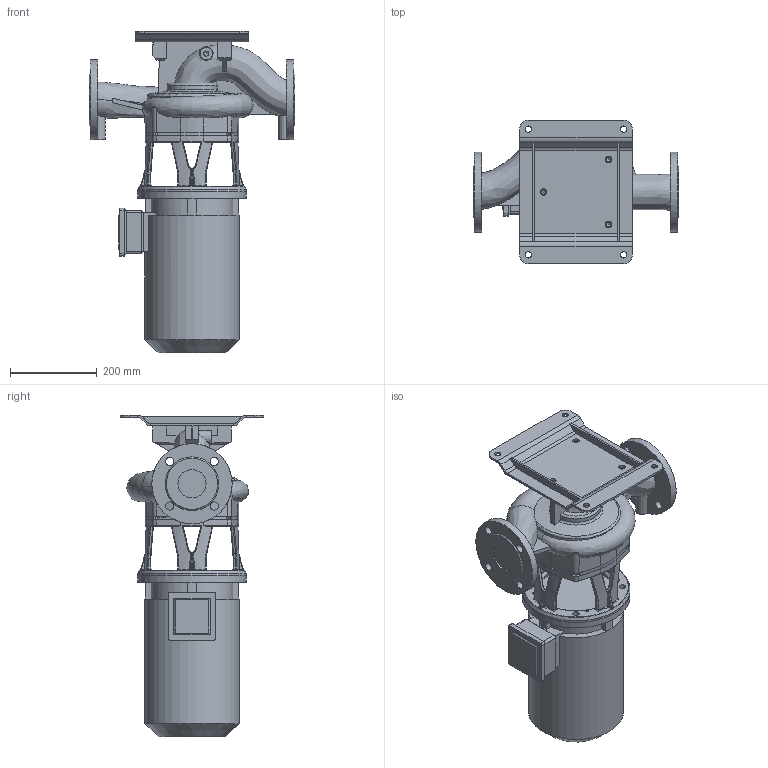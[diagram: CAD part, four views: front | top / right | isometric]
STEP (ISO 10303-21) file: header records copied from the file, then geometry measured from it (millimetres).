
FILE_DESCRIPTION (( 'STEP AP203' ), '1' );
FILE_NAME ('KI65-180_2_4kW.STEP', '2024-07-29T05:15:44', ( '' ), ( '' ), 'SwSTEP 2.0', 'SolidWorks 2023', '' );
FILE_SCHEMA (( 'CONFIG_CONTROL_DESIGN' ));
Length unit declared in the file: millimetre
Products named in the file (11): 440117_480130_solid; 230034; KI65-180_2_4kW; 230414; 220495; 230033; 230482; 230415; 230031; 230481; 220494
Assembly tree (11 placements, depth 3):
  KI65-180_2_4kW
    230415
      230414
    230482
      230481
    220495
      220494
    230034
      230031
      230033  x2
    440117_480130_solid
Bounding box: 475 x 330.18 x 742.35 mm (x, y, z)
Volume: 24515047.1 mm3; surface area: 1322595.8 mm2
Topology: 7 solids, 7 shells, 901 faces, 2307 edges, 1386 vertices
Faces by surface type: plane 279, cylinder 273, bspline 193, torus 82, cone 60, sphere 14
Full cylindrical faces by diameter (mm): 5 x4, 6 x3, 6.8 x4, 7 x8, 10.2 x7, 11.8 x4, 14 x4, 14.5 x7, 15 x8, 19 x8, 65 x2, 150 x1, 180 x1, 185 x2, 186 x1, 189 x1, 219 x1, 250 x2
Entity records: 49923 total; most frequent: CARTESIAN_POINT 29494, ORIENTED_EDGE 4184, DIRECTION 3714, EDGE_CURVE 2092, AXIS2_PLACEMENT_3D 1483, VERTEX_POINT 1316, EDGE_LOOP 1088, FACE_OUTER_BOUND 962
